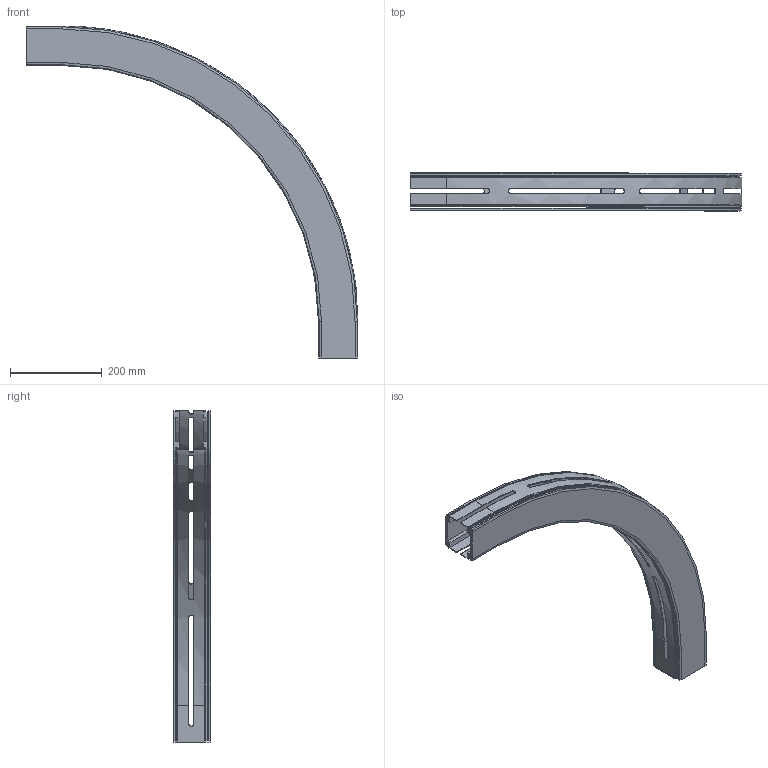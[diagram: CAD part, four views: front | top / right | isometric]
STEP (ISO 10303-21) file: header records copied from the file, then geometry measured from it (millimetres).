
FILE_DESCRIPTION((''),'2;1');
FILE_NAME('C:\Vault Klient\Projekt\Koncept konstruktion\Serie 530 Balk\530-5360.stp','2010-12-01T08:22:59',('Mathias'),(''),'Autodesk Inventor 2011','Autodesk Inventor 2011','');
FILE_SCHEMA(('AUTOMOTIVE_DESIGN { 1 0 10303 214 1 1 1 1 }'));
Length unit declared in the file: millimetre
Products named in the file (1): 530-5360
Bounding box: 723 x 82 x 723 mm (x, y, z)
Volume: 1595217.9 mm3; surface area: 761878 mm2
Topology: 2 solids, 2 shells, 179 faces, 506 edges, 332 vertices
Faces by surface type: plane 115, cylinder 30, bspline 26, torus 4, cone 4
Entity records: 6542 total; most frequent: CARTESIAN_POINT 1880, ORIENTED_EDGE 1012, DIRECTION 862, EDGE_CURVE 506, VECTOR 354, LINE 354, VERTEX_POINT 332, AXIS2_PLACEMENT_3D 254
